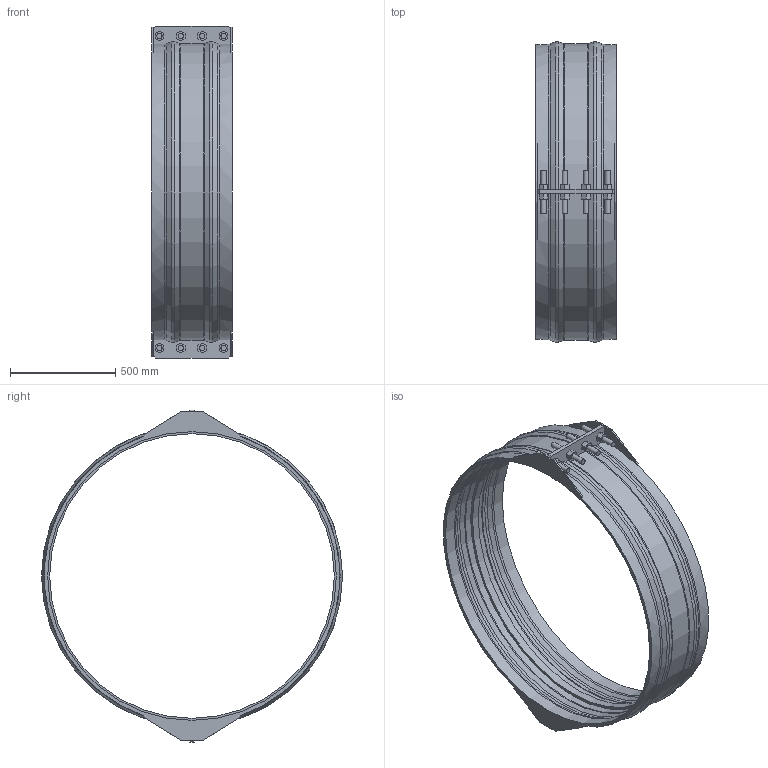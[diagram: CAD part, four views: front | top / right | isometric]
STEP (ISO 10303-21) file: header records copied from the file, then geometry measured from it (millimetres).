
FILE_DESCRIPTION(/* description */ ('VIC RESTRAINED COUPLING STYLE 233 (FLEX) (BRD)','CAx-IF Rec.Pracs.---Representation and Presentation of Product Manufacturing Information (PMI)---4.0---2014-10-13'),/* implementation_level */ '2;1');
FILE_NAME(/* name */ 'C:\Users\Vjadhav\Desktop\CAD for Inventor\Test for STEP\Vivek\Adsk_Inventor_Bolted Sleeve_iParts\STEP\Victaulic_VBSP_Coupling Flexible Restrained_Style 233 (BRD)\Victaulic_VBSP_Coupling Flexible Restrained_Style 233 (BRD)_250psi_54 (1350).stp',/* time_stamp */ '2020-09-24T12:30:25+05:00',/* author */ ('Vjadhav'),/* organization */ ('Victaulic'),/* preprocessor_version */ 'ST-DEVELOPER v17.2',/* originating_system */ 'Autodesk Inventor 2019',/* authorisation */ '');
FILE_SCHEMA (('AP242_MANAGED_MODEL_BASED_3D_ENGINEERING_MIM_LF { 1 0 10303 442 1 1 4 }'));
Length unit declared in the file: inch
Products named in the file (1): Style_233_Type_2_250psi-54.0
Bounding box: 381 x 1430.04 x 1577.34 mm (x, y, z)
Volume: 31707914.4 mm3; surface area: 4100670 mm2
Topology: 1 solids, 1 shells, 239 faces, 625 edges, 422 vertices
Faces by surface type: plane 166, cylinder 43, torus 18, cone 12
Full cylindrical faces by diameter (mm): 25.4 x16, 1352.55 x1, 1371.6 x2, 1377.95 x2
Entity records: 7896 total; most frequent: CARTESIAN_POINT 1496, DIRECTION 1259, ORIENTED_EDGE 1250, EDGE_CURVE 625, LINE 449, VECTOR 449, VERTEX_POINT 422, AXIS2_PLACEMENT_3D 405
